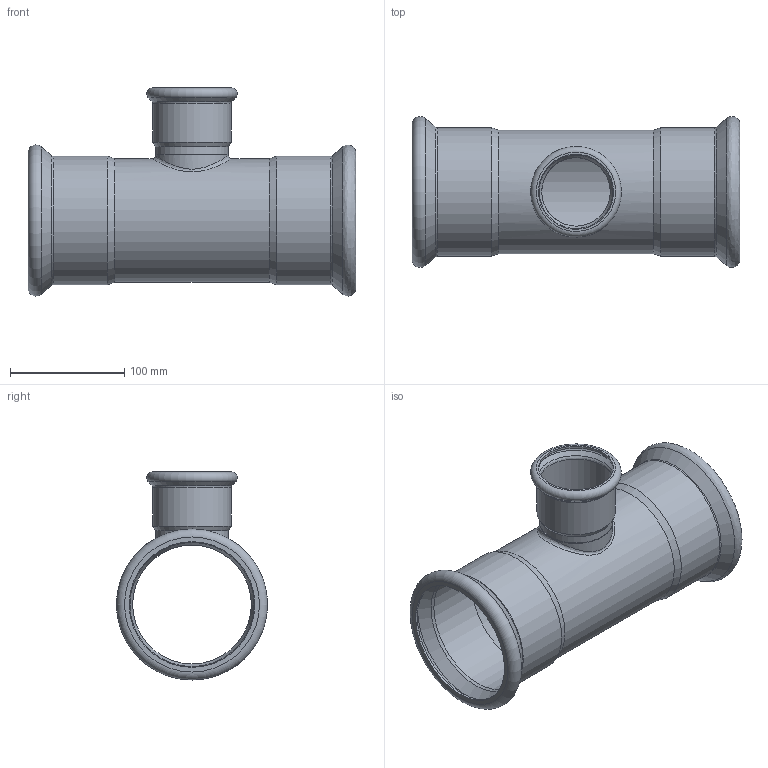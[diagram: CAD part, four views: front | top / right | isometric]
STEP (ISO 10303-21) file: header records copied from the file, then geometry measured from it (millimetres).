
FILE_DESCRIPTION((''),'2;1');
FILE_NAME('G:\Nirosan-Schmiedefeld\Technics\CAD\Bauteile VA\108\6913010864108(0).stp','2009-05-08T09:42:39',('herberg'),(''),'Autodesk Inventor 2009','Autodesk Inventor 2009','');
FILE_SCHEMA(('AUTOMOTIVE_DESIGN { 1 0 10303 214 1 1 1 1 }'));
Length unit declared in the file: millimetre
Products named in the file (3): 6913010864108(0); 6913010864108LM(0); HM_6924364(0)
Assembly tree (2 placements, depth 2):
  6913010864108(0)
    6913010864108LM(0)
    HM_6924364(0)
Bounding box: 287 x 132.19 x 182.09 mm (x, y, z)
Volume: 238145.7 mm3; surface area: 240911.4 mm2
Topology: 2 solids, 2 shells, 49 faces, 96 edges, 55 vertices
Faces by surface type: bspline 19, cylinder 12, cone 8, plane 6, torus 4
Full cylindrical faces by diameter (mm): 60 x2, 64 x2, 64.4 x1, 65.7 x1, 68.4 x1, 104 x1, 108 x1, 108.7 x1, 110 x1, 112.7 x1
Entity records: 3089 total; most frequent: CARTESIAN_POINT 2232, DIRECTION 164, ORIENTED_EDGE 104, EDGE_LOOP 98, AXIS2_PLACEMENT_3D 82, EDGE_CURVE 52, VERTEX_POINT 50, FACE_OUTER_BOUND 49
